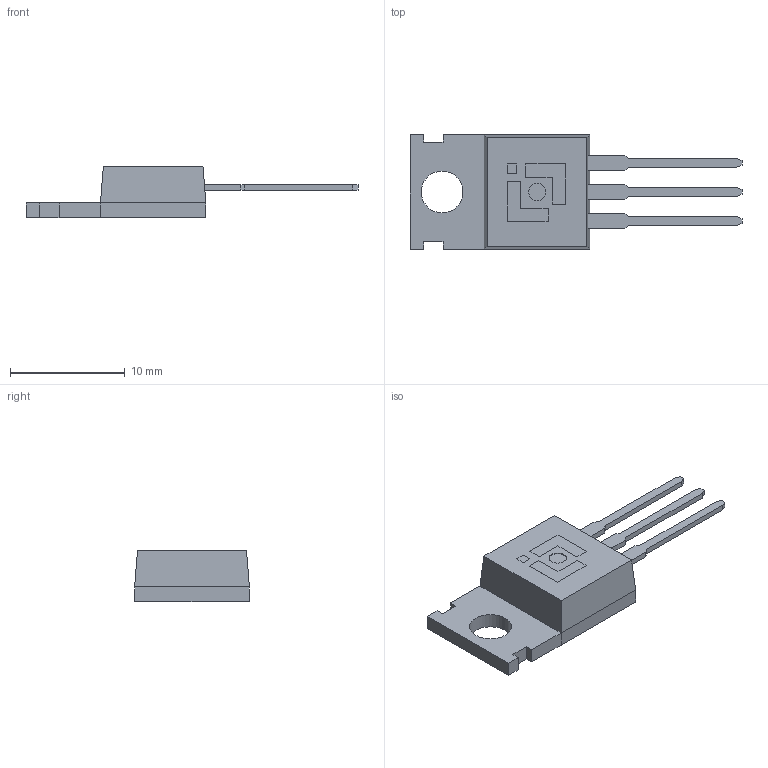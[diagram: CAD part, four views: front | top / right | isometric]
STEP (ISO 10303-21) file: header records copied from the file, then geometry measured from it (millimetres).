
FILE_DESCRIPTION(('HOOPS Exchange Step'),'2;1');
FILE_NAME('C:\Users\jiang\AppData\Local\Packages\Shapr3D.Shapr3D_j403pzjkqtqbj\TempState\export\temp_export','2026-06-08T11:33:36+08:00',('黄宇航'),('Shapr3D Limited'),'HOOPS Exchange 2026.3','Shapr3D','Authorized');
FILE_SCHEMA( ('AP242_MANAGED_MODEL_BASED_3D_ENGINEERING_MIM_LF {1 0 10303 442 1 1 4}') );
Length unit declared in the file: millimetre
Products named in the file (2): TO-220-3L-CB_盛元 有logo.step; root
Assembly tree (1 placements, depth 2):
  root
    TO-220-3L-CB_盛元 有logo.step
Bounding box: 28.98 x 10.02 x 4.5 mm (x, y, z)
Volume: 488.1 mm3; surface area: 778.8 mm2
Topology: 5 solids, 5 shells, 91 faces, 225 edges, 148 vertices
Faces by surface type: plane 89, cylinder 2
Full cylindrical faces by diameter (mm): 1.5 x1, 3.65 x1
Entity records: 2720 total; most frequent: CARTESIAN_POINT 468, ORIENTED_EDGE 450, DIRECTION 419, EDGE_CURVE 225, VECTOR 221, LINE 221, VERTEX_POINT 148, AXIS2_PLACEMENT_3D 99
